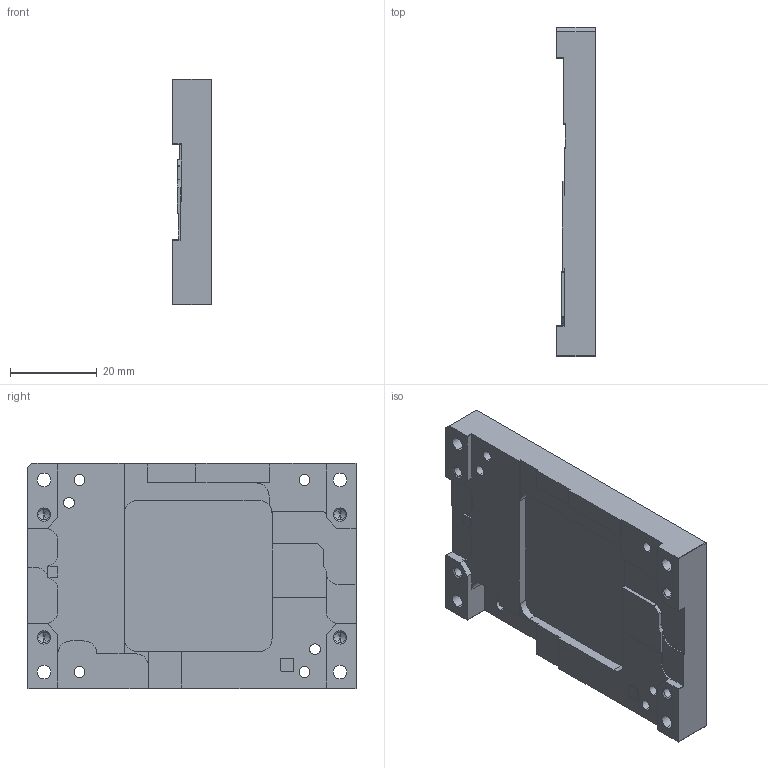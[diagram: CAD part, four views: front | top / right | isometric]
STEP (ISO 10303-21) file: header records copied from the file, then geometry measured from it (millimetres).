
FILE_DESCRIPTION (( 'STEP AP203' ), '1' );
FILE_NAME ('34344.STEP', '2024-08-19T14:49:36', ( '' ), ( '' ), 'SwSTEP 2.0', 'SolidWorks 2018', '' );
FILE_SCHEMA (( 'CONFIG_CONTROL_DESIGN' ));
Length unit declared in the file: millimetre
Products named in the file (1): 34344
Bounding box: 9 x 76 x 52 mm (x, y, z)
Volume: 25934.3 mm3; surface area: 11277 mm2
Topology: 1 solids, 1 shells, 176 faces, 491 edges, 314 vertices
Faces by surface type: cylinder 82, plane 70, cone 24
Entity records: 5734 total; most frequent: DIRECTION 1019, CARTESIAN_POINT 974, ORIENTED_EDGE 966, EDGE_CURVE 483, AXIS2_PLACEMENT_3D 359, VERTEX_POINT 314, VECTOR 301, LINE 301
